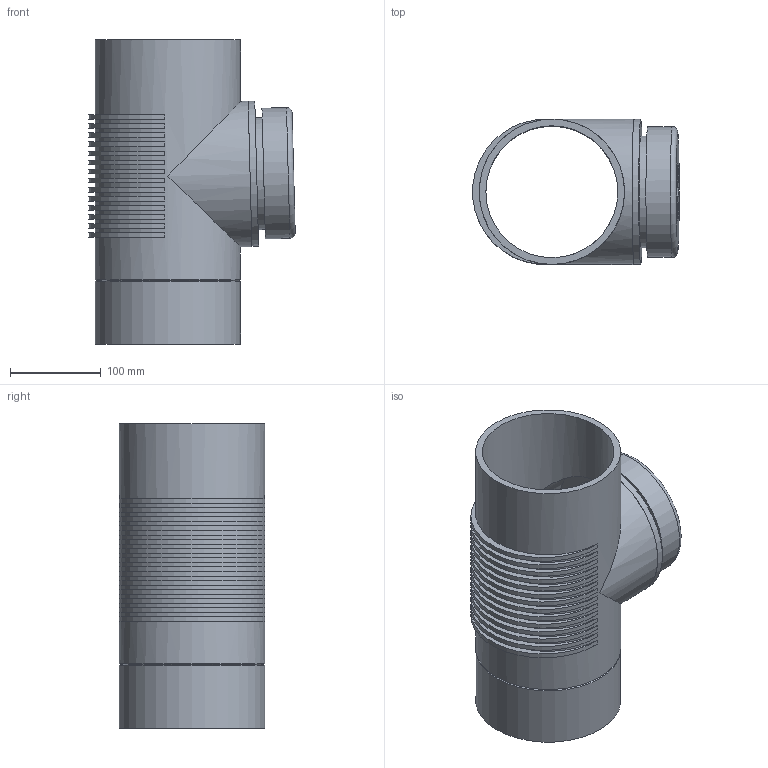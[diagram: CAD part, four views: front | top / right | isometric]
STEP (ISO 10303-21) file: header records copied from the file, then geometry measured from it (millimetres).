
FILE_DESCRIPTION(/* description */ (''),/* implementation_level */ '2;1');
FILE_NAME(/* name */ 'Z:\Geberit\Export\NewStep\315333.stp',/* time_stamp */ '2014-04-01T20:15:09+02:00',/* author */ ('ML'),/* organization */ (''),/* preprocessor_version */ 'ST-DEVELOPER v15.2',/* originating_system */ 'Autodesk Inventor 2014',/* authorisation */ '');
FILE_SCHEMA (('AUTOMOTIVE_DESIGN { 1 0 10303 214 3 1 1 }'));
Length unit declared in the file: millimetre
Products named in the file (4): 862529; 853404; 861199; 315333
Bounding box: 227.26 x 160 x 335 mm (x, y, z)
Volume: 1627505.8 mm3; surface area: 477288.9 mm2
Topology: 3 solids, 3 shells, 105 faces, 261 edges, 172 vertices
Faces by surface type: plane 53, cylinder 46, cone 5, torus 1
Full cylindrical faces by diameter (mm): 8 x2, 78 x1, 111.5 x1, 123.4 x2, 130 x2, 144 x1, 145.32 x2, 151.4 x1, 160 x4
Entity records: 2895 total; most frequent: DIRECTION 540, CARTESIAN_POINT 444, ORIENTED_EDGE 384, AXIS2_PLACEMENT_3D 236, EDGE_CURVE 192, EDGE_LOOP 158, VERTEX_POINT 140, CIRCLE 120
